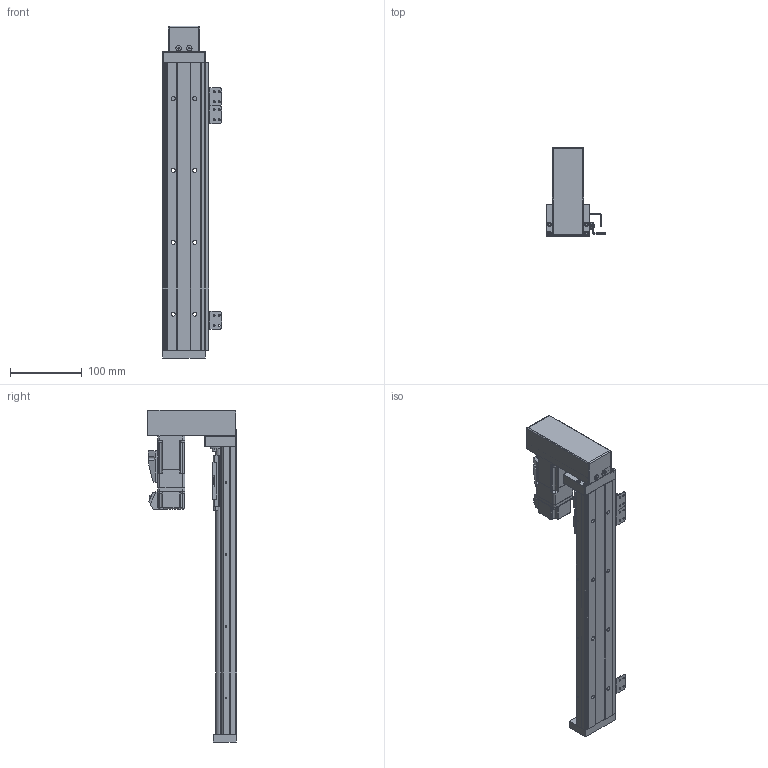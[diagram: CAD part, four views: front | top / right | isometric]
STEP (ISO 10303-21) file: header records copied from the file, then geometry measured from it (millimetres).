
FILE_DESCRIPTION (( 'STEP AP203' ), '1' );
FILE_NAME ('KH60D10C-400A1-H2WS0 - Z.STEP', '2022-06-09T01:34:03', ( 'CXY' ), ( 'BT' ), 'SwSTEP 2.0', 'SolidWorks 2016', '' );
FILE_SCHEMA (( 'CONFIG_CONTROL_DESIGN' ));
Length unit declared in the file: millimetre
Products named in the file (21): 囀鞠褒す埴芛蹟隊M3℅5; B-KK60-A1-F0C; KK60-02-04; KH60D10C-400A1-H2WS0 - Z; KH86-08-SX674; 内六角圆柱头螺钉M3×10; 侂狟萇儂P10B; 鞠褒蹟譫M3; KK60-01-02-XXXX_KK60-01-02-150; 晦埴芛M3X6蹟隊; 錨璃2; KH60-500; 綴釱; 内六角圆柱头螺钉M3×18; KK60-04-07G; KK60-08-01; KK60-02-01-H0_KK60-02-01-H0&H1; KH60-02-0000; 216々湍; KK60-02-03; KK60-02-02
Assembly tree (33 placements, depth 3):
  KH60D10C-400A1-H2WS0 - Z
    KH60-500
    B-KK60-A1-F0C
      錨璃2
    綴釱
    KH86-08-SX674  x3
      KK60-08-01
      囀鞠褒す埴芛蹟隊M3℅5
      鞠褒蹟譫M3
    KK60-01-02-XXXX_KK60-01-02-150
    KH60-02-0000
      KK60-02-01-H0_KK60-02-01-H0&H1
      KK60-02-02
      KK60-02-03
      内六角圆柱头螺钉M3×18  x4
      侂狟萇儂P10B
      KK60-02-04
      216々湍
      内六角圆柱头螺钉M3×10  x4
      晦埴芛M3X6蹟隊  x4
    KK60-04-07G
Bounding box: 82.4 x 124.3 x 462 mm (x, y, z)
Volume: 649028 mm3; surface area: 227061.9 mm2
Topology: 39 solids, 39 shells, 2190 faces, 5706 edges, 3663 vertices
Faces by surface type: plane 1032, cylinder 555, bspline 280, cone 249, torus 62, sphere 12
Entity records: 58504 total; most frequent: CARTESIAN_POINT 14636, ORIENTED_EDGE 9034, DIRECTION 7773, EDGE_CURVE 4517, VERTEX_POINT 2966, LINE 2795, VECTOR 2795, AXIS2_PLACEMENT_3D 2489
